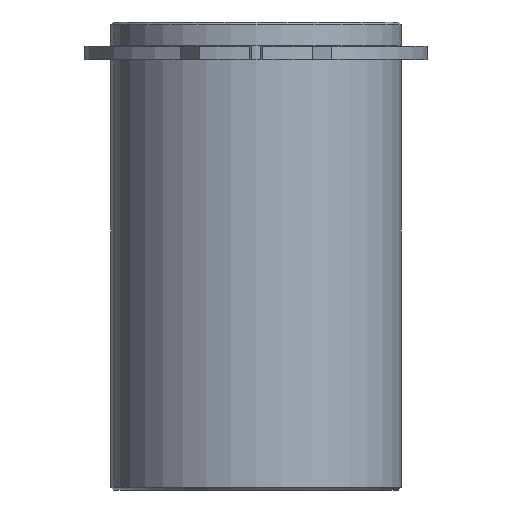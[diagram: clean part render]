
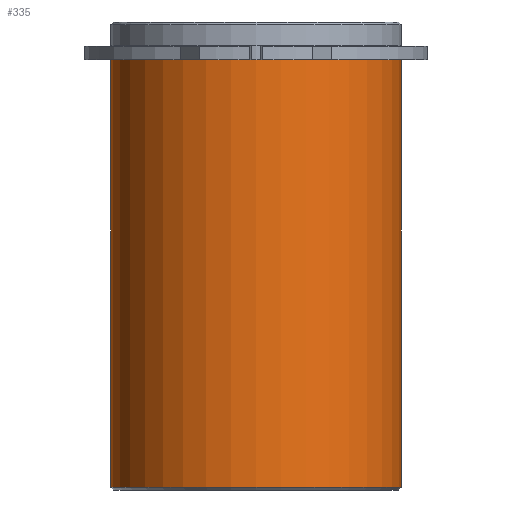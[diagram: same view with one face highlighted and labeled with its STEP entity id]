
A CAD part, front view. The second image highlights one B-rep face of the part: STEP entity #335.
In plain terms, the highlighted cylindrical face has radius 16.125 mm (diameter 32.25 mm), a partial arc.
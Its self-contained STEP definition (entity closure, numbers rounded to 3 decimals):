
#294=CARTESIAN_POINT('',(0.0,0.,-23.75));
#295=DIRECTION('',(0.0,0.,1.0));
#296=DIRECTION('',(1.0,0.0,0.0));
#297=AXIS2_PLACEMENT_3D('',#294,#295,#296);
#298=CYLINDRICAL_SURFACE('',#297,16.125);
#299=CARTESIAN_POINT('',(16.125,0.0,0.0));
#300=VERTEX_POINT('',#299);
#301=CARTESIAN_POINT('',(16.125,0.,-47.5));
#302=VERTEX_POINT('',#301);
#303=CARTESIAN_POINT('',(16.125,0.0,0.0));
#304=DIRECTION('',(0.0,0.0,-1.0));
#305=VECTOR('',#304,47.5);
#306=LINE('',#303,#305);
#307=EDGE_CURVE('',#300,#302,#306,.T.);
#308=ORIENTED_EDGE('',*,*,#307,.F.);
#309=CARTESIAN_POINT('',(-16.125,0.,0.0));
#310=VERTEX_POINT('',#309);
#311=CARTESIAN_POINT('',(0.0,0.0,0.0));
#312=DIRECTION('',(0.0,0.0,1.0));
#313=DIRECTION('',(1.0,0.0,0.0));
#314=AXIS2_PLACEMENT_3D('',#311,#312,#313);
#315=CIRCLE('',#314,16.125);
#316=EDGE_CURVE('',#310,#300,#315,.T.);
#317=ORIENTED_EDGE('',*,*,#316,.F.);
#318=CARTESIAN_POINT('',(-16.125,0.,-47.5));
#319=VERTEX_POINT('',#318);
#320=CARTESIAN_POINT('',(-16.125,0.,0.0));
#321=DIRECTION('',(0.0,0.0,-1.0));
#322=VECTOR('',#321,47.5);
#323=LINE('',#320,#322);
#324=EDGE_CURVE('',#310,#319,#323,.T.);
#325=ORIENTED_EDGE('',*,*,#324,.T.);
#326=CARTESIAN_POINT('',(0.0,0.,-47.5));
#327=DIRECTION('',(0.0,0.0,1.0));
#328=DIRECTION('',(1.0,0.0,0.0));
#329=AXIS2_PLACEMENT_3D('',#326,#327,#328);
#330=CIRCLE('',#329,16.125);
#331=EDGE_CURVE('',#319,#302,#330,.T.);
#332=ORIENTED_EDGE('',*,*,#331,.T.);
#333=EDGE_LOOP('',(#308,#317,#325,#332));
#334=FACE_OUTER_BOUND('',#333,.T.);
#335=ADVANCED_FACE('',(#334),#298,.T.);
